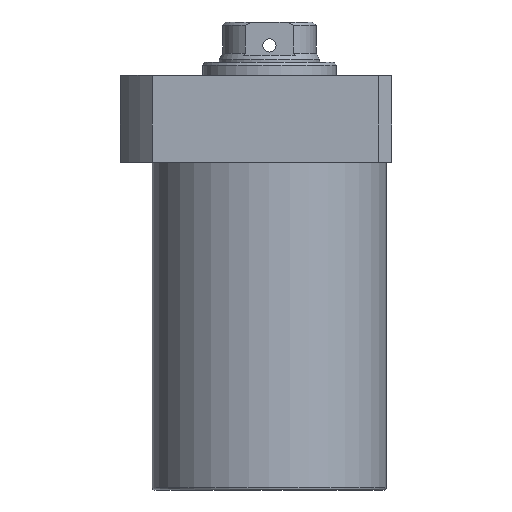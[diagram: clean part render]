
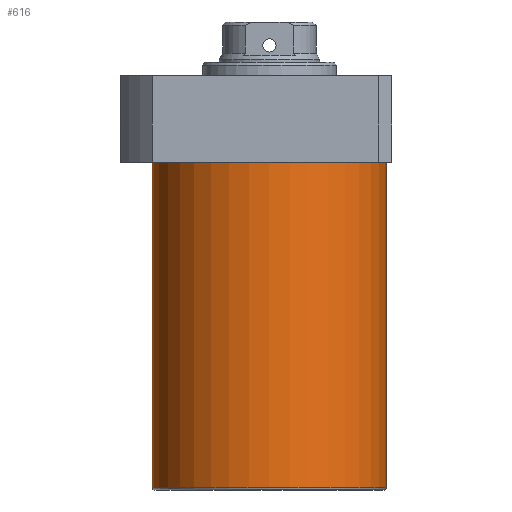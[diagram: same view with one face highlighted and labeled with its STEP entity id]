
A CAD part, front view. The second image highlights one B-rep face of the part: STEP entity #616.
In plain terms, the highlighted cylindrical face has radius 52.5 mm (diameter 105 mm), a partial arc.
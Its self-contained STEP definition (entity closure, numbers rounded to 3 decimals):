
#3 = VERTEX_POINT ( 'NONE', #2184 ) ;
#34 = DIRECTION ( 'NONE',  ( 1., 0., 0. ) ) ;
#140 = LINE ( 'NONE', #432, #970 ) ;
#153 = CIRCLE ( 'NONE', #1285, 52.5 ) ;
#256 = DIRECTION ( 'NONE',  ( 0., 0., 1. ) ) ;
#260 = VERTEX_POINT ( 'NONE', #539 ) ;
#350 = VERTEX_POINT ( 'NONE', #1759 ) ;
#382 = FACE_OUTER_BOUND ( 'NONE', #569, .T. ) ;
#383 = CARTESIAN_POINT ( 'NONE',  ( 0., 0., -19.5 ) ) ;
#432 = CARTESIAN_POINT ( 'NONE',  ( 52.5, 0., -166.5 ) ) ;
#450 = EDGE_CURVE ( 'NONE', #2136, #350, #153, .T. ) ;
#539 = CARTESIAN_POINT ( 'NONE',  ( -52.5, 0., -19.5 ) ) ;
#569 = EDGE_LOOP ( 'NONE', ( #1661, #1727, #1288, #957 ) ) ;
#607 = CARTESIAN_POINT ( 'NONE',  ( 0., 0., -165.5 ) ) ;
#616 = ADVANCED_FACE ( 'NONE', ( #382 ), #2131, .T. ) ;
#620 = DIRECTION ( 'NONE',  ( 0., 0., 1. ) ) ;
#656 = AXIS2_PLACEMENT_3D ( 'NONE', #383, #909, #34 ) ;
#698 = EDGE_CURVE ( 'NONE', #3, #260, #1623, .T. ) ;
#742 = VECTOR ( 'NONE', #620, 1000. ) ;
#909 = DIRECTION ( 'NONE',  ( 0., 0., -1. ) ) ;
#957 = ORIENTED_EDGE ( 'NONE', *, *, #698, .T. ) ;
#970 = VECTOR ( 'NONE', #256, 1000. ) ;
#1049 = AXIS2_PLACEMENT_3D ( 'NONE', #2027, #1526, #1373 ) ;
#1279 = DIRECTION ( 'NONE',  ( 0., 0., 1. ) ) ;
#1285 = AXIS2_PLACEMENT_3D ( 'NONE', #607, #1279, #1788 ) ;
#1288 = ORIENTED_EDGE ( 'NONE', *, *, #2013, .T. ) ;
#1373 = DIRECTION ( 'NONE',  ( 1., 0., 0. ) ) ;
#1526 = DIRECTION ( 'NONE',  ( 0., 0., 1. ) ) ;
#1608 = CARTESIAN_POINT ( 'NONE',  ( -52.5, 0., -166.5 ) ) ;
#1623 = CIRCLE ( 'NONE', #656, 52.5 ) ;
#1661 = ORIENTED_EDGE ( 'NONE', *, *, #2040, .F. ) ;
#1727 = ORIENTED_EDGE ( 'NONE', *, *, #450, .T. ) ;
#1759 = CARTESIAN_POINT ( 'NONE',  ( 52.5, 0., -165.5 ) ) ;
#1788 = DIRECTION ( 'NONE',  ( -1., 0., 0. ) ) ;
#1806 = LINE ( 'NONE', #1608, #742 ) ;
#1848 = CARTESIAN_POINT ( 'NONE',  ( -52.5, 0., -165.5 ) ) ;
#2013 = EDGE_CURVE ( 'NONE', #350, #3, #140, .T. ) ;
#2027 = CARTESIAN_POINT ( 'NONE',  ( 0., 0., -166.5 ) ) ;
#2040 = EDGE_CURVE ( 'NONE', #2136, #260, #1806, .T. ) ;
#2131 = CYLINDRICAL_SURFACE ( 'NONE', #1049, 52.5 ) ;
#2136 = VERTEX_POINT ( 'NONE', #1848 ) ;
#2184 = CARTESIAN_POINT ( 'NONE',  ( 52.5, 0., -19.5 ) ) ;
